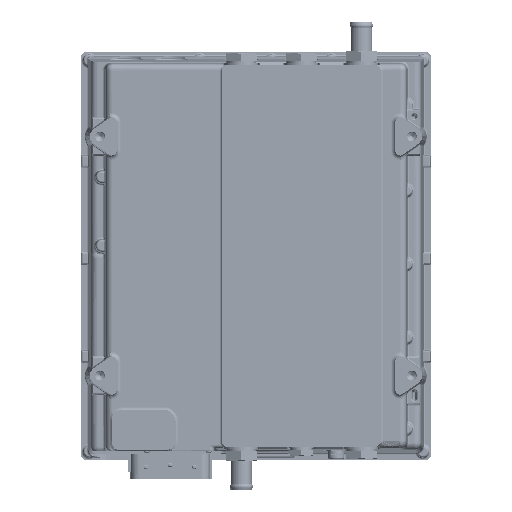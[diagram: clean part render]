
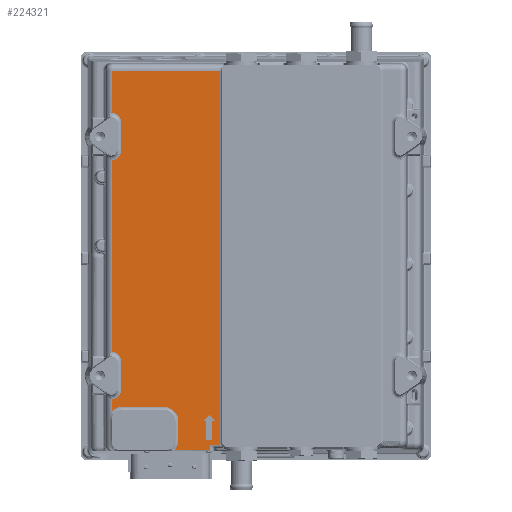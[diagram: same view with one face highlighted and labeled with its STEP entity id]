
A CAD part, front view. The second image highlights one B-rep face of the part: STEP entity #224321.
In plain terms, the highlighted planar face has unit normal (0, -1, 0).
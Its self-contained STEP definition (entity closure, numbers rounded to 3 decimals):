
#4190=FACE_BOUND('',#27280,.T.);
#12847=FACE_OUTER_BOUND('',#27279,.T.);
#27279=EDGE_LOOP('',(#141514,#141515,#141516,#141517,#141518,#141519,#141520,
#141521,#141522,#141523,#141524,#141525,#141526,#141527,#141528,#141529,
#141530,#141531,#141532,#141533,#141534));
#27280=EDGE_LOOP('',(#141535,#141536,#141537,#141538,#141539,#141540,#141541));
#42490=B_SPLINE_CURVE_WITH_KNOTS('',3,(#338407,#338408,#338409,#338410,
#338411,#338412),.UNSPECIFIED.,.F.,.F.,(4,2,4),(0.4,0.41,0.411),
 .UNSPECIFIED.);
#45859=LINE('',#337982,#60248);
#45860=LINE('',#338057,#60249);
#45868=LINE('',#338163,#60257);
#45883=LINE('',#338286,#60272);
#45886=LINE('',#338375,#60275);
#45887=LINE('',#338379,#60276);
#45888=LINE('',#338381,#60277);
#45889=LINE('',#338385,#60278);
#45890=LINE('',#338390,#60279);
#45891=LINE('',#338394,#60280);
#45892=LINE('',#338398,#60281);
#45893=LINE('',#338403,#60282);
#45894=LINE('',#338405,#60283);
#45895=LINE('',#338414,#60284);
#45896=LINE('',#338416,#60285);
#45897=LINE('',#338418,#60286);
#45898=LINE('',#338420,#60287);
#45899=LINE('',#338421,#60288);
#60248=VECTOR('',#266931,1000.);
#60249=VECTOR('',#266934,1000.);
#60257=VECTOR('',#266954,1000.);
#60272=VECTOR('',#266995,1000.);
#60275=VECTOR('',#267004,1000.);
#60276=VECTOR('',#267007,1000.);
#60277=VECTOR('',#267008,1000.);
#60278=VECTOR('',#267011,1000.);
#60279=VECTOR('',#267016,1000.);
#60280=VECTOR('',#267019,1000.);
#60281=VECTOR('',#267022,1000.);
#60282=VECTOR('',#267027,1000.);
#60283=VECTOR('',#267028,1000.);
#60284=VECTOR('',#267031,1000.);
#60285=VECTOR('',#267032,1000.);
#60286=VECTOR('',#267033,1000.);
#60287=VECTOR('',#267034,1000.);
#60288=VECTOR('',#267035,1000.);
#74648=CIRCLE('',#238934,7.372);
#74649=CIRCLE('',#238935,9.81);
#74650=CIRCLE('',#238936,9.81);
#74651=CIRCLE('',#238937,9.81);
#74652=CIRCLE('',#238938,9.81);
#74653=CIRCLE('',#238939,15.);
#74654=CIRCLE('',#238940,15.);
#74655=CIRCLE('',#238941,15.);
#74656=CIRCLE('',#238942,7.372);
#89417=VERTEX_POINT('',#337937);
#89418=VERTEX_POINT('',#337981);
#89421=VERTEX_POINT('',#338055);
#89422=VERTEX_POINT('',#338056);
#89431=VERTEX_POINT('',#338160);
#89432=VERTEX_POINT('',#338162);
#89457=VERTEX_POINT('',#338284);
#89458=VERTEX_POINT('',#338285);
#89461=VERTEX_POINT('',#338373);
#89462=VERTEX_POINT('',#338374);
#89463=VERTEX_POINT('',#338376);
#89464=VERTEX_POINT('',#338378);
#89465=VERTEX_POINT('',#338380);
#89466=VERTEX_POINT('',#338382);
#89467=VERTEX_POINT('',#338384);
#89468=VERTEX_POINT('',#338387);
#89469=VERTEX_POINT('',#338389);
#89470=VERTEX_POINT('',#338391);
#89471=VERTEX_POINT('',#338393);
#89472=VERTEX_POINT('',#338395);
#89473=VERTEX_POINT('',#338397);
#89474=VERTEX_POINT('',#338400);
#89475=VERTEX_POINT('',#338402);
#89476=VERTEX_POINT('',#338404);
#89477=VERTEX_POINT('',#338406);
#89478=VERTEX_POINT('',#338415);
#89479=VERTEX_POINT('',#338417);
#89480=VERTEX_POINT('',#338419);
#108454=EDGE_CURVE('',#89418,#89417,#45859,.T.);
#108458=EDGE_CURVE('',#89421,#89422,#45860,.T.);
#108471=EDGE_CURVE('',#89431,#89432,#45868,.T.);
#108500=EDGE_CURVE('',#89457,#89458,#45883,.T.);
#108506=EDGE_CURVE('',#89461,#89462,#45886,.T.);
#108507=EDGE_CURVE('',#89462,#89463,#74648,.T.);
#108508=EDGE_CURVE('',#89463,#89464,#45887,.T.);
#108509=EDGE_CURVE('',#89464,#89465,#45888,.T.);
#108510=EDGE_CURVE('',#89465,#89466,#74649,.T.);
#108511=EDGE_CURVE('',#89466,#89467,#45889,.T.);
#108512=EDGE_CURVE('',#89467,#89418,#74650,.T.);
#108513=EDGE_CURVE('',#89417,#89468,#74651,.T.);
#108514=EDGE_CURVE('',#89468,#89469,#45890,.T.);
#108515=EDGE_CURVE('',#89469,#89470,#74652,.T.);
#108516=EDGE_CURVE('',#89470,#89471,#45891,.T.);
#108517=EDGE_CURVE('',#89471,#89472,#74653,.T.);
#108518=EDGE_CURVE('',#89472,#89473,#45892,.T.);
#108519=EDGE_CURVE('',#89473,#89421,#74654,.T.);
#108520=EDGE_CURVE('',#89422,#89474,#74655,.T.);
#108521=EDGE_CURVE('',#89474,#89475,#45893,.T.);
#108522=EDGE_CURVE('',#89475,#89476,#45894,.T.);
#108523=EDGE_CURVE('',#89476,#89477,#42490,.T.);
#108524=EDGE_CURVE('',#89477,#89461,#74656,.T.);
#108525=EDGE_CURVE('',#89432,#89457,#45895,.T.);
#108526=EDGE_CURVE('',#89478,#89431,#45896,.T.);
#108527=EDGE_CURVE('',#89479,#89478,#45897,.T.);
#108528=EDGE_CURVE('',#89480,#89479,#45898,.T.);
#108529=EDGE_CURVE('',#89458,#89480,#45899,.T.);
#141514=ORIENTED_EDGE('',*,*,#108506,.T.);
#141515=ORIENTED_EDGE('',*,*,#108507,.T.);
#141516=ORIENTED_EDGE('',*,*,#108508,.T.);
#141517=ORIENTED_EDGE('',*,*,#108509,.T.);
#141518=ORIENTED_EDGE('',*,*,#108510,.T.);
#141519=ORIENTED_EDGE('',*,*,#108511,.T.);
#141520=ORIENTED_EDGE('',*,*,#108512,.T.);
#141521=ORIENTED_EDGE('',*,*,#108454,.T.);
#141522=ORIENTED_EDGE('',*,*,#108513,.T.);
#141523=ORIENTED_EDGE('',*,*,#108514,.T.);
#141524=ORIENTED_EDGE('',*,*,#108515,.T.);
#141525=ORIENTED_EDGE('',*,*,#108516,.T.);
#141526=ORIENTED_EDGE('',*,*,#108517,.T.);
#141527=ORIENTED_EDGE('',*,*,#108518,.T.);
#141528=ORIENTED_EDGE('',*,*,#108519,.T.);
#141529=ORIENTED_EDGE('',*,*,#108458,.T.);
#141530=ORIENTED_EDGE('',*,*,#108520,.T.);
#141531=ORIENTED_EDGE('',*,*,#108521,.T.);
#141532=ORIENTED_EDGE('',*,*,#108522,.T.);
#141533=ORIENTED_EDGE('',*,*,#108523,.T.);
#141534=ORIENTED_EDGE('',*,*,#108524,.T.);
#141535=ORIENTED_EDGE('',*,*,#108500,.F.);
#141536=ORIENTED_EDGE('',*,*,#108525,.F.);
#141537=ORIENTED_EDGE('',*,*,#108471,.F.);
#141538=ORIENTED_EDGE('',*,*,#108526,.F.);
#141539=ORIENTED_EDGE('',*,*,#108527,.F.);
#141540=ORIENTED_EDGE('',*,*,#108528,.F.);
#141541=ORIENTED_EDGE('',*,*,#108529,.F.);
#207153=PLANE('',#238933);
#224321=ADVANCED_FACE('',(#12847,#4190),#207153,.F.);
#238933=AXIS2_PLACEMENT_3D('',#338372,#267002,#267003);
#238934=AXIS2_PLACEMENT_3D('',#338377,#267005,#267006);
#238935=AXIS2_PLACEMENT_3D('',#338383,#267009,#267010);
#238936=AXIS2_PLACEMENT_3D('',#338386,#267012,#267013);
#238937=AXIS2_PLACEMENT_3D('',#338388,#267014,#267015);
#238938=AXIS2_PLACEMENT_3D('',#338392,#267017,#267018);
#238939=AXIS2_PLACEMENT_3D('',#338396,#267020,#267021);
#238940=AXIS2_PLACEMENT_3D('',#338399,#267023,#267024);
#238941=AXIS2_PLACEMENT_3D('',#338401,#267025,#267026);
#238942=AXIS2_PLACEMENT_3D('',#338413,#267029,#267030);
#266931=DIRECTION('',(0.,0.,-1.));
#266934=DIRECTION('',(0.,0.,-1.));
#266954=DIRECTION('',(0.,0.,-1.));
#266995=DIRECTION('',(0.,0.,1.));
#267002=DIRECTION('center_axis',(0.,1.,0.));
#267003=DIRECTION('ref_axis',(0.,0.,1.));
#267004=DIRECTION('',(0.,0.,1.));
#267005=DIRECTION('center_axis',(0.,1.,0.));
#267006=DIRECTION('ref_axis',(0.,0.,1.));
#267007=DIRECTION('',(-1.,0.,0.));
#267008=DIRECTION('',(0.,0.,-1.));
#267009=DIRECTION('center_axis',(0.,1.,0.));
#267010=DIRECTION('ref_axis',(0.,0.,1.));
#267011=DIRECTION('',(0.,0.,-1.));
#267012=DIRECTION('center_axis',(0.,1.,0.));
#267013=DIRECTION('ref_axis',(0.,0.,1.));
#267014=DIRECTION('center_axis',(0.,1.,0.));
#267015=DIRECTION('ref_axis',(0.,0.,1.));
#267016=DIRECTION('',(0.,0.,-1.));
#267017=DIRECTION('center_axis',(0.,1.,0.));
#267018=DIRECTION('ref_axis',(0.,0.,1.));
#267019=DIRECTION('',(0.,0.,-1.));
#267020=DIRECTION('center_axis',(0.,1.,0.));
#267021=DIRECTION('ref_axis',(0.,0.,1.));
#267022=DIRECTION('',(1.,0.,0.));
#267023=DIRECTION('center_axis',(0.,1.,0.));
#267024=DIRECTION('ref_axis',(0.,0.,1.));
#267025=DIRECTION('center_axis',(0.,1.,0.));
#267026=DIRECTION('ref_axis',(0.,0.,1.));
#267027=DIRECTION('',(1.,0.,0.));
#267028=DIRECTION('',(0.,0.,1.));
#267029=DIRECTION('center_axis',(0.,1.,0.));
#267030=DIRECTION('ref_axis',(0.,0.,1.));
#267031=DIRECTION('',(1.,0.,0.));
#267032=DIRECTION('',(1.,0.,0.));
#267033=DIRECTION('',(-0.707,0.,-0.707));
#267034=DIRECTION('',(-0.707,0.,0.707));
#267035=DIRECTION('',(1.,0.,0.));
#337937=CARTESIAN_POINT('',(-133.043,-17.1,-166.709));
#337981=CARTESIAN_POINT('',(-133.043,-17.1,31.709));
#337982=CARTESIAN_POINT('',(-133.043,-17.1,0.));
#338055=CARTESIAN_POINT('',(-64.85,-17.1,-238.375));
#338056=CARTESIAN_POINT('',(-64.85,-17.1,-257.625));
#338057=CARTESIAN_POINT('',(-64.85,-17.1,-257.625));
#338160=CARTESIAN_POINT('',(-36.,-17.1,-237.831));
#338162=CARTESIAN_POINT('',(-36.,-17.1,-257.831));
#338163=CARTESIAN_POINT('',(-36.,-17.1,-257.831));
#338284=CARTESIAN_POINT('',(-30.,-17.1,-257.831));
#338285=CARTESIAN_POINT('',(-30.,-17.1,-237.831));
#338286=CARTESIAN_POINT('',(-30.,-17.1,-257.831));
#338372=CARTESIAN_POINT('Origin',(0.,-17.1,0.));
#338373=CARTESIAN_POINT('',(-22.372,-17.1,-258.835));
#338374=CARTESIAN_POINT('',(-22.372,-17.1,123.835));
#338375=CARTESIAN_POINT('',(-22.372,-17.1,0.));
#338376=CARTESIAN_POINT('',(-22.37,-17.1,124.035));
#338377=CARTESIAN_POINT('Origin',(-15.,-17.1,123.835));
#338378=CARTESIAN_POINT('',(-133.043,-17.1,124.035));
#338379=CARTESIAN_POINT('',(-139.686,-17.1,124.035));
#338380=CARTESIAN_POINT('',(-133.043,-17.1,80.291));
#338381=CARTESIAN_POINT('',(-133.043,-17.1,0.));
#338382=CARTESIAN_POINT('',(-123.94,-17.1,70.506));
#338383=CARTESIAN_POINT('Origin',(-133.75,-17.1,70.506));
#338384=CARTESIAN_POINT('',(-123.94,-17.1,41.494));
#338385=CARTESIAN_POINT('',(-123.94,-17.1,0.));
#338386=CARTESIAN_POINT('Origin',(-133.75,-17.1,41.494));
#338387=CARTESIAN_POINT('',(-123.94,-17.1,-176.494));
#338388=CARTESIAN_POINT('Origin',(-133.75,-17.1,-176.494));
#338389=CARTESIAN_POINT('',(-123.94,-17.1,-205.506));
#338390=CARTESIAN_POINT('',(-123.94,-17.1,0.));
#338391=CARTESIAN_POINT('',(-133.043,-17.1,-215.291));
#338392=CARTESIAN_POINT('Origin',(-133.75,-17.1,-205.506));
#338393=CARTESIAN_POINT('',(-133.043,-17.1,-227.464));
#338394=CARTESIAN_POINT('',(-133.043,-17.1,0.));
#338395=CARTESIAN_POINT('',(-122.75,-17.1,-223.375));
#338396=CARTESIAN_POINT('Origin',(-122.75,-17.1,-238.375));
#338397=CARTESIAN_POINT('',(-79.85,-17.1,-223.375));
#338398=CARTESIAN_POINT('',(-79.85,-17.1,-223.375));
#338399=CARTESIAN_POINT('Origin',(-79.85,-17.1,-238.375));
#338400=CARTESIAN_POINT('',(-68.81,-17.1,-267.78));
#338401=CARTESIAN_POINT('Origin',(-79.85,-17.1,-257.625));
#338402=CARTESIAN_POINT('',(-32.745,-17.1,-267.78));
#338403=CARTESIAN_POINT('',(-32.745,-17.1,-267.78));
#338404=CARTESIAN_POINT('',(-32.745,-17.1,-262.831));
#338405=CARTESIAN_POINT('',(-32.745,-17.1,-269.677));
#338406=CARTESIAN_POINT('',(-21.302,-17.1,-262.661));
#338407=CARTESIAN_POINT('Ctrl Pts',(-32.745,-17.1,-262.831));
#338408=CARTESIAN_POINT('Ctrl Pts',(-29.363,-17.1,-262.831));
#338409=CARTESIAN_POINT('Ctrl Pts',(-25.98,-17.1,-262.831));
#338410=CARTESIAN_POINT('Ctrl Pts',(-22.166,-17.1,-262.831));
#338411=CARTESIAN_POINT('Ctrl Pts',(-21.734,-17.1,-262.769));
#338412=CARTESIAN_POINT('Ctrl Pts',(-21.302,-17.1,-262.661));
#338413=CARTESIAN_POINT('Origin',(-15.,-17.1,-258.835));
#338414=CARTESIAN_POINT('',(-36.,-17.1,-257.831));
#338415=CARTESIAN_POINT('',(-39.,-17.1,-237.831));
#338416=CARTESIAN_POINT('',(-36.,-17.1,-237.831));
#338417=CARTESIAN_POINT('',(-33.,-17.1,-231.831));
#338418=CARTESIAN_POINT('',(-39.,-17.1,-237.831));
#338419=CARTESIAN_POINT('',(-27.,-17.1,-237.831));
#338420=CARTESIAN_POINT('',(-27.,-17.1,-237.831));
#338421=CARTESIAN_POINT('',(-30.,-17.1,-237.831));
